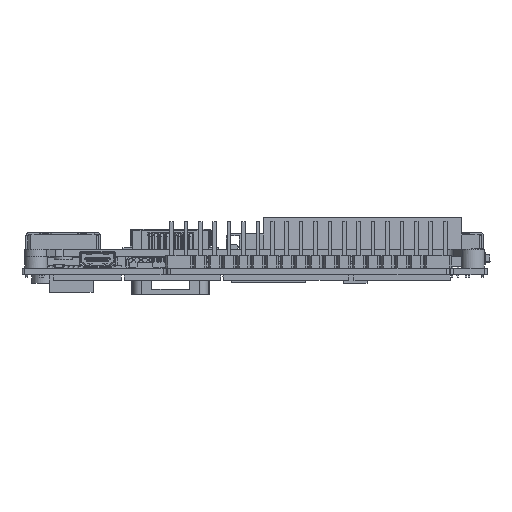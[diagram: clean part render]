
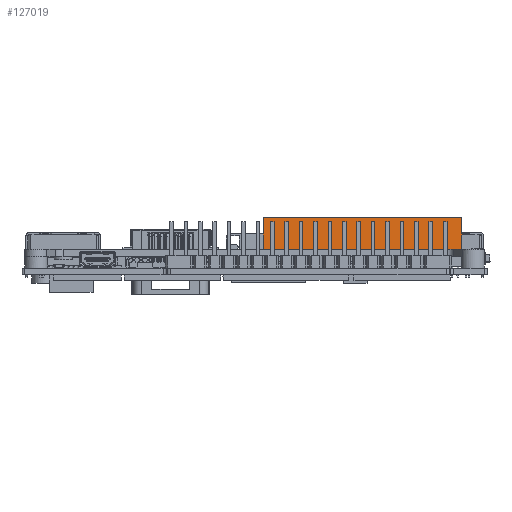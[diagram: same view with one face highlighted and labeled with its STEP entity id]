
A CAD part, front view. The second image highlights one B-rep face of the part: STEP entity #127019.
In plain terms, the highlighted planar face has unit normal (0, -0.999, 0.053).
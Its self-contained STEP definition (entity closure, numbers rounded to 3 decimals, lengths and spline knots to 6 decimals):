
#38814=ORIENTED_EDGE('',*,*,#59529,.T.);
#38815=ORIENTED_EDGE('',*,*,#59530,.F.);
#38816=ORIENTED_EDGE('',*,*,#59531,.T.);
#38817=ORIENTED_EDGE('',*,*,#59532,.F.);
#59529=EDGE_CURVE('',#71979,#71980,#86490,.T.);
#59530=EDGE_CURVE('',#71981,#71980,#86491,.T.);
#59531=EDGE_CURVE('',#71981,#71982,#86492,.T.);
#59532=EDGE_CURVE('',#71979,#71982,#86493,.T.);
#71979=VERTEX_POINT('',#208124);
#71980=VERTEX_POINT('',#208125);
#71981=VERTEX_POINT('',#208127);
#71982=VERTEX_POINT('',#208129);
#86490=LINE('',#208123,#101024);
#86491=LINE('',#208126,#101025);
#86492=LINE('',#208128,#101026);
#86493=LINE('',#208130,#101027);
#101024=VECTOR('',#167828,1.);
#101025=VECTOR('',#167829,1.);
#101026=VECTOR('',#167830,1.);
#101027=VECTOR('',#167831,1.);
#108092=EDGE_LOOP('',(#38814,#38815,#38816,#38817));
#115275=FACE_BOUND('',#108092,.T.);
#120720=PLANE('',#136106);
#127019=ADVANCED_FACE('',(#115275),#120720,.F.);
#136106=AXIS2_PLACEMENT_3D('',#208122,#167826,#167827);
#167826=DIRECTION('',(0.,0.999,-0.053));
#167827=DIRECTION('',(0.,0.053,0.999));
#167828=DIRECTION('',(0.,-0.053,-0.999));
#167829=DIRECTION('',(-1.,0.,0.));
#167830=DIRECTION('',(0.,0.053,0.999));
#167831=DIRECTION('',(1.,0.,0.));
#208122=CARTESIAN_POINT('',(-0.001999,-0.017416,0.450517));
#208123=CARTESIAN_POINT('',(-0.001499,-0.017416,0.450517));
#208124=CARTESIAN_POINT('',(-0.001499,-0.017416,0.450517));
#208125=CARTESIAN_POINT('',(-0.001499,-0.017716,0.444917));
#208126=CARTESIAN_POINT('',(0.0335,-0.017716,0.444917));
#208127=CARTESIAN_POINT('',(0.0335,-0.017716,0.444917));
#208128=CARTESIAN_POINT('',(0.0335,-0.017716,0.444917));
#208129=CARTESIAN_POINT('',(0.0335,-0.017416,0.450517));
#208130=CARTESIAN_POINT('',(-0.001499,-0.017416,0.450517));
